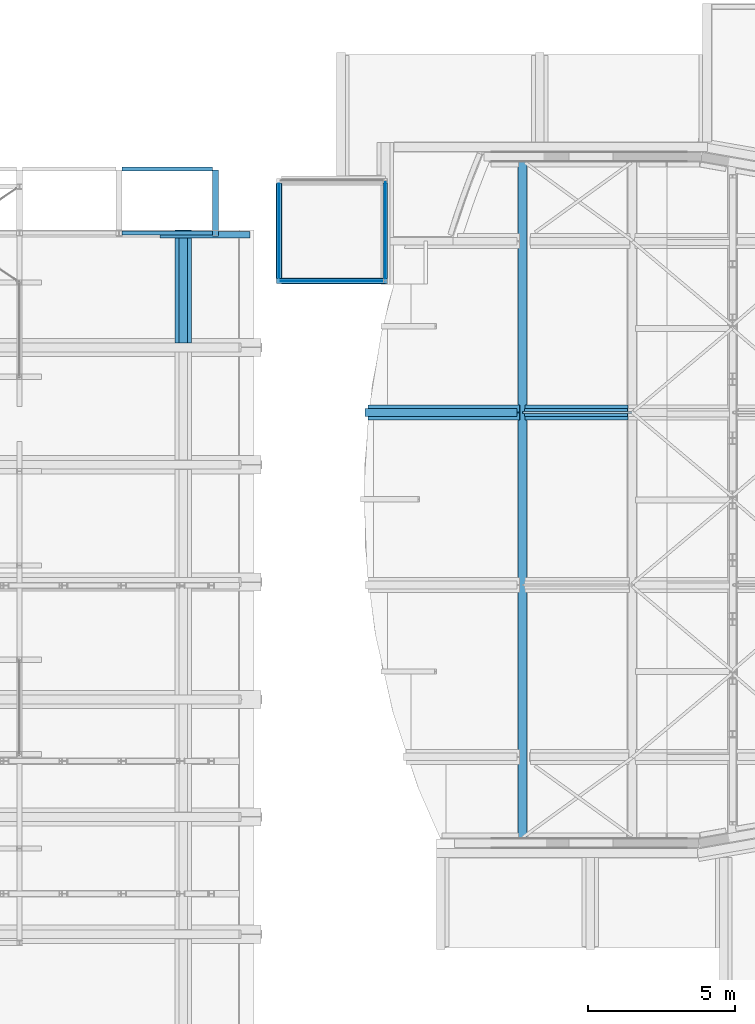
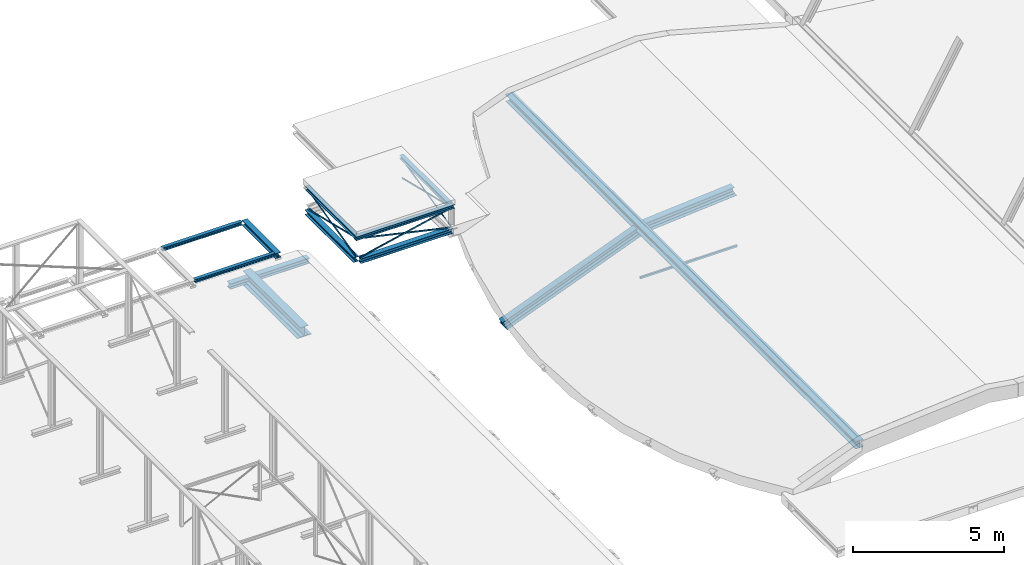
# One storey, part 22 of 50: 20 beams.
"""IFC2X3 building model written with IfcOpenShell, lengths in millimetres."""

import ifcopenshell
import ifcopenshell.guid

model = None  # the IFC model being written
_history = None  # IfcOwnerHistory: only IFC2X3 demands one
_inside = {}  # id of a spatial element -> (the spatial element, [elements in it])
_under = {}  # id of a project, library or spatial element -> (it, [spatial elements below it])
_declared = {}  # id of a project -> (the project, [libraries it declares])
_typed = {}  # id of a type object -> (the type object, [elements of that type])
_made_of = {}  # id of a material, layer set ... -> (it, [elements and type objects made of it])


def new_model(schema):
    """Start an empty IFC model of exactly this schema.

    Asked for "IFC4X3", IfcOpenShell would pick the latest addendum, in which some entities
    have other attributes; the version numbers below select the first issue.
    IFC2X3 requires an IfcOwnerHistory on every rooted entity: one is made here for all.
    """
    global model, _history
    if schema == "IFC4X3":
        model = ifcopenshell.file(schema_version=(4, 3, 0, 0))
    else:
        model = ifcopenshell.file(schema=schema)
    _inside.clear()
    _under.clear()
    _declared.clear()
    _typed.clear()
    _made_of.clear()
    _history = None
    if model.schema == "IFC2X3":
        org = make("IfcOrganization", Name="unknown")
        user = make(
            "IfcPersonAndOrganization",
            ThePerson=make("IfcPerson", FamilyName="unknown"),
            TheOrganization=org,
        )
        app = make(
            "IfcApplication",
            ApplicationDeveloper=org,
            Version="unknown",
            ApplicationFullName="unknown",
            ApplicationIdentifier="unknown",
        )
        _history = make(
            "IfcOwnerHistory",
            OwningUser=user,
            OwningApplication=app,
            ChangeAction="ADDED",
            CreationDate=0,
        )
    return model


def make(cls, **values):
    """One entity of the class cls with the attributes given. An attribute that is None is left unset."""
    return model.create_entity(
        cls, **{name: value for name, value in values.items() if value is not None}
    )


def entity(cls, *values):
    """Any entity or typed value of the class cls, its attributes in the order of the schema. None: left unset."""
    e = model.create_entity(cls)
    for i, value in enumerate(values):
        if value is not None:
            e[i] = value
    return e


def rooted(cls, **values):
    """An entity with a GlobalId (a new one), such as an element, a storey or a relation."""
    return make(cls, GlobalId=ifcopenshell.guid.new(), OwnerHistory=_history, **values)


def si_unit(unit_type, name, prefix=None):
    """IfcSIUnit, for example si_unit("LENGTHUNIT", "METRE", prefix="MILLI")."""
    return make("IfcSIUnit", UnitType=unit_type, Prefix=prefix, Name=name)


def converted_unit(unit_type, name, factor, base, dimensions=None, offset=None):
    """IfcConversionBasedUnit, such as the inch: factor (a typed value) times the base unit."""
    return make(
        "IfcConversionBasedUnit"
        if offset is None
        else "IfcConversionBasedUnitWithOffset",
        ConversionOffset=offset,
        Dimensions=None
        if dimensions is None
        else entity("IfcDimensionalExponents", *dimensions),
        UnitType=unit_type,
        Name=name,
        ConversionFactor=make(
            "IfcMeasureWithUnit", ValueComponent=factor, UnitComponent=base
        ),
    )


def derived_unit(unit_type, elements):
    """IfcDerivedUnit: a product of units, each with its exponent."""
    return make(
        "IfcDerivedUnit",
        Elements=[
            make("IfcDerivedUnitElement", Unit=unit, Exponent=power)
            for unit, power in elements
        ],
        UnitType=unit_type,
    )


def assignment(units):
    """IfcUnitAssignment: the units of a project."""
    return None if units is None else make("IfcUnitAssignment", Units=units)


def point(xyz):
    """IfcCartesianPoint."""
    return None if xyz is None else make("IfcCartesianPoint", Coordinates=xyz)


def direction(xyz):
    """IfcDirection."""
    return None if xyz is None else make("IfcDirection", DirectionRatios=xyz)


def frame(location, z_axis=None, x_axis=None):
    """IfcAxis2Placement3D, a coordinate frame: its origin and axes. An axis left out is left unset."""
    return make(
        "IfcAxis2Placement3D",
        Location=point(location),
        Axis=direction(z_axis),
        RefDirection=direction(x_axis),
    )


def frame_2d(location, x_axis=None):
    """IfcAxis2Placement2D, a coordinate frame in the plane: its origin and x axis."""
    return make(
        "IfcAxis2Placement2D", Location=point(location), RefDirection=direction(x_axis)
    )


def origin():
    """The frame at (0, 0, 0) with its axes left unset."""
    return frame((0.0, 0.0, 0.0))


def origin_2d_with_axis():
    """The frame at (0, 0) in the plane with the x axis (1, 0) written out."""
    return frame_2d((0.0, 0.0), x_axis=(1.0, 0.0))


def place(relative_to, where):
    """IfcLocalPlacement: puts the frame where relative to a parent placement (None: the world)."""
    return make(
        "IfcLocalPlacement", PlacementRelTo=relative_to, RelativePlacement=where
    )


def context(
    kind, dimensions, precision=None, world=None, true_north=None, identifier=None
):
    """IfcGeometricRepresentationContext, for example the 3D "Model" context."""
    return make(
        "IfcGeometricRepresentationContext",
        ContextIdentifier=identifier,
        ContextType=kind,
        CoordinateSpaceDimension=dimensions,
        Precision=precision,
        WorldCoordinateSystem=world,
        TrueNorth=true_north,
    )


def subcontext(parent, identifier, kind, view, scale=None):
    """IfcGeometricRepresentationSubContext, for example "Body" below "Model"."""
    return make(
        "IfcGeometricRepresentationSubContext",
        ContextIdentifier=identifier,
        ContextType=kind,
        ParentContext=parent,
        TargetScale=scale,
        TargetView=view,
    )


def project(units=None, contexts=None):
    """IfcProject with its units and contexts."""
    return rooted(
        "IfcProject",
        Name="project",
        RepresentationContexts=contexts,
        UnitsInContext=assignment(units),
    )


def spatial(cls, under=None, at=None, **own):
    """A site, building, storey or space (cls), placed at a placement, below another one or the project."""
    s = rooted(cls, ObjectPlacement=at, **own)
    if under is not None:
        _under.setdefault(under.id(), (under, []))[1].append(s)
    return s


def polyline(points):
    """IfcPolyline through the points."""
    return make("IfcPolyline", Points=[point(p) for p in points])


def circle_curve(where, radius):
    """IfcCircle in the frame where."""
    return make("IfcCircle", Position=where, Radius=radius)


def parameter(value):
    """IfcParameterValue: where a trimmed curve begins or ends, as a parameter of its basis curve."""
    return model.create_entity("IfcParameterValue", value)


def trimmed(basis, trim1, trim2, sense, master):
    """IfcTrimmedCurve: the piece of a basis curve between two trims."""
    return make(
        "IfcTrimmedCurve",
        BasisCurve=basis,
        Trim1=trim1,
        Trim2=trim2,
        SenseAgreement=sense,
        MasterRepresentation=master,
    )


def segment(curve, same_sense, transition):
    """IfcCompositeCurveSegment."""
    return make(
        "IfcCompositeCurveSegment",
        Transition=transition,
        SameSense=same_sense,
        ParentCurve=curve,
    )


def composite_curve(segments, self_intersect=None):
    """IfcCompositeCurve: segments joined end to end."""
    return make("IfcCompositeCurve", Segments=segments, SelfIntersect=self_intersect)


def profile(cls, at=None, kind="AREA", **sizes):
    """A parametric profile (cls). Its sizes go by their IFC names, for example OverallWidth=200.0."""
    return make(cls, ProfileType=kind, Position=at, **sizes)


def rectangle(**sizes):
    """IfcRectangleProfileDef."""
    return profile("IfcRectangleProfileDef", **sizes)


def i_section(**sizes):
    """IfcIShapeProfileDef."""
    return profile("IfcIShapeProfileDef", **sizes)


def outline(outer, holes=None, kind="AREA"):
    """IfcArbitraryClosedProfileDef: a profile drawn as a closed curve; with holes, ...WithVoids."""
    if holes is None:
        return make("IfcArbitraryClosedProfileDef", ProfileType=kind, OuterCurve=outer)
    return make(
        "IfcArbitraryProfileDefWithVoids",
        ProfileType=kind,
        OuterCurve=outer,
        InnerCurves=holes,
    )


def extrude(swept, where, along, depth):
    """IfcExtrudedAreaSolid: the profile swept, set in the frame where, extruded along a direction by depth."""
    return make(
        "IfcExtrudedAreaSolid",
        SweptArea=swept,
        Position=where,
        ExtrudedDirection=direction(along),
        Depth=depth,
    )


def shape(context_of_items, identifier, shape_type, items):
    """IfcShapeRepresentation: the items that make up one representation, for example the "Body"."""
    return make(
        "IfcShapeRepresentation",
        ContextOfItems=context_of_items,
        RepresentationIdentifier=identifier,
        RepresentationType=shape_type,
        Items=items,
    )


def source(mapping_origin, context_of_items, identifier, shape_type, items):
    """IfcRepresentationMap: a shape defined once, which mapped items show again and again."""
    return make(
        "IfcRepresentationMap",
        MappingOrigin=mapping_origin,
        MappedRepresentation=shape(context_of_items, identifier, shape_type, items),
    )


def transform(
    local_origin,
    x_axis=None,
    y_axis=None,
    z_axis=None,
    scale=None,
    scale2=None,
    scale3=None,
    uniform=True,
):
    """IfcCartesianTransformationOperator3D, or its non-uniform kind. x_axis, y_axis, z_axis: its Axis1, 2, 3."""
    if uniform:
        return make(
            "IfcCartesianTransformationOperator3D",
            Axis1=direction(x_axis),
            Axis2=direction(y_axis),
            LocalOrigin=point(local_origin),
            Scale=scale,
            Axis3=direction(z_axis),
        )
    return make(
        "IfcCartesianTransformationOperator3DnonUniform",
        Axis1=direction(x_axis),
        Axis2=direction(y_axis),
        LocalOrigin=point(local_origin),
        Scale=scale,
        Axis3=direction(z_axis),
        Scale2=scale2,
        Scale3=scale3,
    )


def mapped(mapping_source, mapping_target):
    """IfcMappedItem: shows the shape of a source again, moved by a transform."""
    return make(
        "IfcMappedItem", MappingSource=mapping_source, MappingTarget=mapping_target
    )


def material(Name=None, Category=None):
    """IfcMaterial."""
    return make("IfcMaterial", Name=Name, Category=Category)


def material_list(materials):
    """IfcMaterialList."""
    return make("IfcMaterialList", Materials=materials)


def made_of(thing, what):
    """Note that an element or type object is made of a material, layer set ...; save() writes the relation."""
    if what is not None:
        _made_of.setdefault(what.id(), (what, []))[1].append(thing)
    return thing


def type_object(cls, material=None, **own):
    """A type object (cls), such as IfcWallType, which elements share."""
    return made_of(rooted(cls, **own), material)


def type_shapes(of_type, sources):
    """Give a type object the sources (RepresentationMaps) that its elements show as mapped items."""
    of_type.RepresentationMaps = sources


def element(
    cls,
    number,
    at=None,
    inside=None,
    cuts=None,
    type_object=None,
    material=None,
    context=None,
    identifier="Body",
    shape_type=None,
    held_by="IfcProductDefinitionShape",
    body=None,
    shapes=None,
    **own,
):
    """One element of the class cls, such as IfcWall. Its Tag is "e" and its number.

    at: its placement. inside: the storey or other place that contains it. cuts: it is an
    opening in that element (IfcRelVoidsElement). A single representation is given by context,
    identifier, shape_type and body (its items); several are given by shapes. held_by: the class
    of the entity that holds the representations. save() writes the other relations.
    """
    e = rooted(cls, Tag="e%d" % number, ObjectPlacement=at, **own)
    if body is not None:
        shapes = [shape(context, identifier, shape_type, body)]
    if shapes is not None:
        e.Representation = make(held_by, Representations=shapes)
    if inside is not None:
        _inside.setdefault(inside.id(), (inside, []))[1].append(e)
    if cuts is not None:
        rooted(
            "IfcRelVoidsElement", RelatingBuildingElement=cuts, RelatedOpeningElement=e
        )
    if type_object is not None:
        _typed.setdefault(type_object.id(), (type_object, []))[1].append(e)
    return made_of(e, material)


def aggregate(whole, parts):
    """IfcRelAggregates: a whole, such as a stair, and the parts it consists of."""
    return rooted("IfcRelAggregates", RelatingObject=whole, RelatedObjects=parts)


def save(model, path):
    """Write the relations noted so far, then the file.

    IfcRelAggregates (storeys below a building ...), IfcRelContainedInSpatialStructure (elements
    in a storey), IfcRelDefinesByType, IfcRelAssociatesMaterial and IfcRelDeclares: one each for
    every whole, place, type object, material and project.
    """
    for whole, parts in _under.values():
        aggregate(whole, parts)
    for where, things in _inside.values():
        rooted(
            "IfcRelContainedInSpatialStructure",
            RelatedElements=things,
            RelatingStructure=where,
        )
    for kind, things in _typed.values():
        rooted("IfcRelDefinesByType", RelatedObjects=things, RelatingType=kind)
    for what, things in _made_of.values():
        rooted("IfcRelAssociatesMaterial", RelatedObjects=things, RelatingMaterial=what)
    for by, libraries in _declared.values():
        rooted("IfcRelDeclares", RelatingContext=by, RelatedDefinitions=libraries)
    model.write(path)


model = new_model("IFC2X3")

# Units and contexts
model_context = context("Model", 3, precision=0.01, world=origin(), true_north=direction((6.12303176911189e-17, 1.0)))
body_context = subcontext(model_context, "Body", "Model", "MODEL_VIEW")
ifc_project = project(units=[si_unit("LENGTHUNIT", "METRE", prefix="MILLI"), si_unit("AREAUNIT", "SQUARE_METRE", prefix="MILLI"), si_unit("VOLUMEUNIT", "CUBIC_METRE"), converted_unit("PLANEANGLEUNIT", "DEGREE", entity("IfcRatioMeasure", 0.0174532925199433), si_unit("PLANEANGLEUNIT", "RADIAN"), dimensions=[0, 0, 0, 0, 0, 0, 0]), si_unit("MASSUNIT", "GRAM", prefix="KILO"), derived_unit("MASSDENSITYUNIT", [(si_unit("MASSUNIT", "GRAM", prefix="KILO"), 1), (si_unit("LENGTHUNIT", "METRE"), -3)]), derived_unit("MOMENTOFINERTIAUNIT", [(si_unit("LENGTHUNIT", "METRE"), 4)]), si_unit("TIMEUNIT", "SECOND"), si_unit("FREQUENCYUNIT", "HERTZ"), si_unit("THERMODYNAMICTEMPERATUREUNIT", "DEGREE_CELSIUS"), derived_unit("THERMALTRANSMITTANCEUNIT", [(si_unit("MASSUNIT", "GRAM", prefix="KILO"), 1), (si_unit("THERMODYNAMICTEMPERATUREUNIT", "KELVIN"), -1), (si_unit("TIMEUNIT", "SECOND"), -3)]), derived_unit("VOLUMETRICFLOWRATEUNIT", [(si_unit("LENGTHUNIT", "METRE"), 3), (si_unit("TIMEUNIT", "SECOND"), -1)]), si_unit("ELECTRICCURRENTUNIT", "AMPERE"), si_unit("ELECTRICVOLTAGEUNIT", "VOLT"), si_unit("POWERUNIT", "WATT"), si_unit("FORCEUNIT", "NEWTON", prefix="KILO"), si_unit("ILLUMINANCEUNIT", "LUX"), si_unit("LUMINOUSFLUXUNIT", "LUMEN"), si_unit("LUMINOUSINTENSITYUNIT", "CANDELA"), derived_unit("USERDEFINED", [(si_unit("MASSUNIT", "GRAM", prefix="KILO"), -1), (si_unit("LENGTHUNIT", "METRE"), -2), (si_unit("TIMEUNIT", "SECOND"), 3), (si_unit("LUMINOUSFLUXUNIT", "LUMEN"), 1)]), derived_unit("LINEARVELOCITYUNIT", [(si_unit("LENGTHUNIT", "METRE"), 1), (si_unit("TIMEUNIT", "SECOND"), -1)]), si_unit("PRESSUREUNIT", "PASCAL"), derived_unit("USERDEFINED", [(si_unit("LENGTHUNIT", "METRE"), -2), (si_unit("MASSUNIT", "GRAM", prefix="KILO"), 1), (si_unit("TIMEUNIT", "SECOND"), -2)]), derived_unit("LINEARFORCEUNIT", [(si_unit("MASSUNIT", "GRAM", prefix="KILO"), 1), (si_unit("LENGTHUNIT", "METRE"), 1), (si_unit("TIMEUNIT", "SECOND"), -2), (si_unit("LENGTHUNIT", "METRE"), -1)]), derived_unit("PLANARFORCEUNIT", [(si_unit("MASSUNIT", "GRAM", prefix="KILO"), 1), (si_unit("LENGTHUNIT", "METRE"), 1), (si_unit("TIMEUNIT", "SECOND"), -2), (si_unit("LENGTHUNIT", "METRE"), -2)])], contexts=[model_context])

# Site, building, storey
site_placement = place(None, origin())
site = spatial("IfcSite", under=ifc_project, at=site_placement, Name="Theater aan de Parade", CompositionType="ELEMENT")
building_placement = place(site_placement, origin())
building = spatial("IfcBuilding", under=site, at=building_placement, Name="Theater aan de Parade", CompositionType="ELEMENT")
storey_placement = place(building_placement, frame((0.0, 0.0, 15820.0)))
storey = spatial("IfcBuildingStorey", under=building, at=storey_placement, Name="04 vierde verdieping", CompositionType="ELEMENT", Elevation=15820.0)

# Beams
ifc_material_1 = material(Name="00_PBT_MAT_staal_S355")
beam_type_1 = type_object("IfcBeamType", Name="28_PBT_SF_staal_H-profiel:S355_HE140A", PredefinedType="NOTDEFINED")
beam_1_placement = place(storey_placement, frame((35198.1862556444, 43641.6918178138, 0.0), z_axis=(0.0, 0.0, 1.0), x_axis=(-1.0, 0.0, 0.0)))
element("IfcBeam", 1, at=beam_1_placement, inside=storey, type_object=beam_type_1, material=ifc_material_1, Name="28_PBT_SF_staal_H-profiel:S355_HE140A", ObjectType="28_PBT_SF_staal_H-profiel:S355_HE140A", context=body_context, shape_type="SweptSolid", body=[
    extrude(i_section(OverallWidth=139.999999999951, OverallDepth=133.0, WebThickness=5.50000000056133, FlangeThickness=8.49999999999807, FilletRadius=11.9999999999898, at=frame_2d((-2.16715534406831e-12, 8.66151594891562e-12), x_axis=(0.0, 1.0))), frame((100.0, 0.0, 263.499999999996), z_axis=(1.0, 0.0, 0.0), x_axis=(0.0, 0.0, -1.0)), (0.0, 0.0, 1.0), 3065.16378087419),
])
beam_2_placement = place(storey_placement, frame((32033.0224747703, 41473.3083270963, 0.0)))
element("IfcBeam", 2, at=beam_2_placement, inside=storey, type_object=beam_type_1, material=ifc_material_1, Name="28_PBT_SF_staal_H-profiel:S355_HE140A", ObjectType="28_PBT_SF_staal_H-profiel:S355_HE140A", context=body_context, shape_type="SweptSolid", body=[
    extrude(outline(composite_curve([segment(polyline([(58.0, -70.0), (66.5000000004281, -70.0)]), True, "CONTINUOUS"), segment(polyline([(66.5000000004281, -70.0), (66.499999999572, 70.0)]), True, "CONTINUOUS"), segment(polyline([(66.499999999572, 70.0), (58.0, 70.0)]), True, "CONTINUOUS"), segment(polyline([(58.0, 70.0), (58.0, 14.750000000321)]), True, "CONTINUOUS"), segment(trimmed(circle_curve(frame_2d((46.0, 14.750000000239), x_axis=(1.0, 0.0)), 11.9999999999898), [parameter(269.999999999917)], [parameter(0.0)], True, "PARAMETER"), False, "CONTINUOUS"), segment(polyline([(46.0, 2.75000000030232), (-46.0, 2.74999999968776)]), True, "CONTINUOUS"), segment(trimmed(circle_curve(frame_2d((-46.0, 14.7499999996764), x_axis=(0.0, -1.0)), 11.9999999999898), [parameter(269.999999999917)], [parameter(0.0)], True, "PARAMETER"), False, "CONTINUOUS"), segment(polyline([(-58.0, 14.7499999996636), (-58.0, 70.0)]), True, "CONTINUOUS"), segment(polyline([(-58.0, 70.0), (-66.5000000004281, 70.0)]), True, "CONTINUOUS"), segment(polyline([(-66.5000000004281, 70.0), (-66.499999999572, -70.0)]), True, "CONTINUOUS"), segment(polyline([(-66.4999999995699, -70.0), (-58.0, -70.0)]), True, "CONTINUOUS"), segment(polyline([(-58.0, -70.0), (-58.0, -14.7500000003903)]), True, "CONTINUOUS"), segment(trimmed(circle_curve(frame_2d((-46.0, -14.7500000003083), x_axis=(-1.0, 0.0)), 11.9999999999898), [parameter(269.999999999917)], [parameter(0.0)], True, "PARAMETER"), False, "CONTINUOUS"), segment(polyline([(-46.0, -2.75000000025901), (46.0, -2.7499999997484)]), True, "CONTINUOUS"), segment(trimmed(circle_curve(frame_2d((46.0, -14.7499999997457), x_axis=(0.0, 1.0)), 11.9999999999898), [parameter(269.999999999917)], [parameter(0.0)], True, "PARAMETER"), False, "CONTINUOUS"), segment(polyline([(58.0, -14.749999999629), (58.0, -70.0)]), True, "CONTINUOUS")], self_intersect=False)), frame((0.0, 0.0, 295.5), z_axis=(1.0, 0.0, 0.0), x_axis=(0.0, 0.0, -1.0)), (0.0, 0.0, 1.0), 3065.16378087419),
])
beam_type_2 = type_object("IfcBeamType", Name="28_PBT_SF_staal_H-profiel:S355_HE300B", PredefinedType="NOTDEFINED")
beam_3_placement = place(storey_placement, frame((45610.0, 20630.0, 1440.0), z_axis=(0.0, 0.0, 1.0), x_axis=(0.0, 1.0, 0.0)))
element("IfcBeam", 3, at=beam_3_placement, inside=storey, type_object=beam_type_2, material=ifc_material_1, Name="28_PBT_SF_staal_H-profiel:S355_HE300B", ObjectType="28_PBT_SF_staal_H-profiel:S355_HE300B", context=body_context, shape_type="SweptSolid", body=[
    extrude(i_section(OverallWidth=300.000000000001, OverallDepth=300.000000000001, WebThickness=10.9999999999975, FlangeThickness=18.9999999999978, FilletRadius=27.0000000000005, at=frame_2d((2.17426077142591e-12, 8.65441052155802e-12), x_axis=(0.0, 1.0))), frame((162.699999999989, 0.0, 0.0), z_axis=(1.0, 0.0, 0.0), x_axis=(0.0, 0.0, -1.0)), (0.0, 0.0, 1.0), 23254.6),
])
beam_type_3 = type_object("IfcBeamType", Name="28_PBT_SF_staal_H-profiel (void):S355_HE200A", PredefinedType="NOTDEFINED")
beam_4_placement = place(storey_placement, frame((40973.8581274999, 39850.0, 0.0), z_axis=(0.0, 0.0, 1.0), x_axis=(-1.0, 0.0, 0.0)))
element("IfcBeam", 4, at=beam_4_placement, inside=storey, type_object=beam_type_3, material=ifc_material_1, Name="28_PBT_SF_staal_H-profiel (void):S355_HE200A", ObjectType="28_PBT_SF_staal_H-profiel (void):S355_HE200A", context=body_context, shape_type="SweptSolid", body=[
    extrude(outline(composite_curve([segment(polyline([(85.0, -100.0), (95.0, -100.0)]), True, "CONTINUOUS"), segment(polyline([(95.0, -100.0), (95.0, 100.0)]), True, "CONTINUOUS"), segment(polyline([(95.0, 100.0), (85.0, 100.0)]), True, "CONTINUOUS"), segment(polyline([(85.0, 100.0), (85.0, 21.2500000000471)]), True, "CONTINUOUS"), segment(trimmed(circle_curve(frame_2d((67.0, 21.2500000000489), x_axis=(1.0, 0.0)), 17.9999999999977), [parameter(269.999999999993)], [parameter(0.0)], True, "PARAMETER"), False, "CONTINUOUS"), segment(polyline([(67.0, 3.25000000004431), (-67.0, 3.24999999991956)]), True, "CONTINUOUS"), segment(trimmed(circle_curve(frame_2d((-67.0, 21.2499999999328), x_axis=(0.0, -1.0)), 17.9999999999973), [parameter(269.999999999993)], [parameter(0.0)], True, "PARAMETER"), False, "CONTINUOUS"), segment(polyline([(-85.0, 21.2499999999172), (-85.0, 100.0)]), True, "CONTINUOUS"), segment(polyline([(-85.0, 100.0), (-95.0, 100.0)]), True, "CONTINUOUS"), segment(polyline([(-95.0, 100.0), (-95.0, -100.0)]), True, "CONTINUOUS"), segment(polyline([(-95.0, -100.0), (-85.0, -100.0)]), True, "CONTINUOUS"), segment(polyline([(-85.0, -100.0), (-85.0, -21.2500000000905)]), True, "CONTINUOUS"), segment(trimmed(circle_curve(frame_2d((-67.0, -21.2500000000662), x_axis=(-1.0, 0.0)), 17.9999999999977), [parameter(269.999999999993)], [parameter(0.0)], True, "PARAMETER"), False, "CONTINUOUS"), segment(polyline([(-67.0, -3.2500000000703), (67.0, -3.24999999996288)]), True, "CONTINUOUS"), segment(trimmed(circle_curve(frame_2d((67.0, -21.2499999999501), x_axis=(0.0, 1.0)), 17.9999999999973), [parameter(269.999999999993)], [parameter(0.0)], True, "PARAMETER"), False, "CONTINUOUS"), segment(polyline([(85.0, -21.2499999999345), (85.0, -100.0)]), True, "CONTINUOUS")], self_intersect=False)), frame((0.0, 0.0, 220.0), z_axis=(1.0, 0.0, 0.0), x_axis=(0.0, 0.0, -1.0)), (0.0, 0.0, 1.0), 3534.49999741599),
])
beam_type_4 = type_object("IfcBeamType", Name="28_PBT_SF_staal_H-profiel:S355_HE200B", PredefinedType="NOTDEFINED")
beam_5_placement = place(storey_placement, frame((35198.1862556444, 43617.3619328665, 0.0), z_axis=(0.0, 0.0, 1.0), x_axis=(0.0, -1.0, 0.0)))
element("IfcBeam", 5, at=beam_5_placement, inside=storey, type_object=beam_type_4, material=ifc_material_1, Name="28_PBT_SF_staal_H-profiel:S355_HE200B", ObjectType="28_PBT_SF_staal_H-profiel:S355_HE200B", context=body_context, shape_type="SweptSolid", body=[
    extrude(i_section(OverallWidth=200.000000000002, OverallDepth=200.0, WebThickness=9.00000000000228, FlangeThickness=14.9999999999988, FilletRadius=18.0000000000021, at=frame_2d((-1.08713038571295e-12, -2.16715534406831e-12), x_axis=(0.0, 1.0))), frame((0.0, 0.0, 262.0), z_axis=(1.0, 0.0, 0.0), x_axis=(0.0, 0.0, -1.0)), (0.0, 0.0, 1.0), 2244.0536057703),
])
beam_6_placement = place(storey_placement, frame((37353.858130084, 43160.0, 0.0), z_axis=(0.0, 0.0, 1.0), x_axis=(0.0, -1.0, 0.0)))
element("IfcBeam", 6, at=beam_6_placement, inside=storey, type_object=beam_type_4, material=ifc_material_1, Name="28_PBT_SF_staal_H-profiel:S355_HE200B", ObjectType="28_PBT_SF_staal_H-profiel:S355_HE200B", context=body_context, shape_type="SweptSolid", body=[
    extrude(i_section(OverallWidth=200.000000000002, OverallDepth=200.0, WebThickness=9.00000000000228, FlangeThickness=14.9999999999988, FilletRadius=18.0000000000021, at=frame_2d((3.24718030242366e-12, 2.16715534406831e-12), x_axis=(0.0, 1.0))), frame((0.0, 0.0, 215.0), z_axis=(1.0, 0.0, 0.0), x_axis=(0.0, 0.0, -1.0)), (0.0, 0.0, 1.0), 3220.00000560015),
])
beam_type_5 = type_object("IfcBeamType", Name="28_PBT_SF_staal_H-profiel:S355_HE160A", PredefinedType="NOTDEFINED")
beam_7_placement = place(storey_placement, frame((37353.858130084, 43170.0, 0.0), z_axis=(0.0, 0.0, 1.0), x_axis=(0.0, -1.0, 0.0)))
element("IfcBeam", 7, at=beam_7_placement, inside=storey, type_object=beam_type_5, material=ifc_material_1, Name="28_PBT_SF_staal_H-profiel:S355_HE160A", ObjectType="28_PBT_SF_staal_H-profiel:S355_HE160A", context=body_context, shape_type="SweptSolid", body=[
    extrude(i_section(OverallWidth=160.000000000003, OverallDepth=152.0, WebThickness=6.00000000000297, FlangeThickness=8.99999999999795, FilletRadius=15.0000000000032, at=frame_2d((0.0, -6.49436060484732e-12), x_axis=(0.0, 1.0))), frame((0.0, 0.0, 1174.0), z_axis=(1.0, 0.0, 0.0), x_axis=(0.0, 0.0, -1.0)), (0.0, 0.0, 1.0), 3240.00000560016),
])
beam_8_placement = place(storey_placement, frame((41043.8581275, 39850.0, 0.0), z_axis=(0.0, 0.0, 1.0), x_axis=(-1.0, 0.0, 0.0)))
element("IfcBeam", 8, at=beam_8_placement, inside=storey, type_object=beam_type_5, material=ifc_material_1, Name="28_PBT_SF_staal_H-profiel:S355_HE160A", ObjectType="28_PBT_SF_staal_H-profiel:S355_HE160A", context=body_context, shape_type="SweptSolid", body=[
    extrude(outline(composite_curve([segment(polyline([(67.0, -80.0), (76.0, -80.0)]), True, "CONTINUOUS"), segment(polyline([(76.0, -80.0), (76.0, 80.0)]), True, "CONTINUOUS"), segment(polyline([(76.0, 80.0), (67.0, 80.0)]), True, "CONTINUOUS"), segment(polyline([(67.0, 80.0), (67.0, 18.0)]), True, "CONTINUOUS"), segment(trimmed(circle_curve(frame_2d((52.0, 18.0), x_axis=(1.0, 0.0)), 14.9999999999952), [parameter(269.999999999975)], [parameter(0.0)], True, "PARAMETER"), False, "CONTINUOUS"), segment(polyline([(52.0, 3.0), (-52.0, 3.0)]), True, "CONTINUOUS"), segment(trimmed(circle_curve(frame_2d((-52.0, 18.0), x_axis=(0.0, -1.0)), 14.9999999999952), [parameter(269.999999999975)], [parameter(0.0)], True, "PARAMETER"), False, "CONTINUOUS"), segment(polyline([(-67.0, 18.0), (-67.0, 80.0)]), True, "CONTINUOUS"), segment(polyline([(-67.0, 80.0), (-76.0, 80.0)]), True, "CONTINUOUS"), segment(polyline([(-76.0, 80.0), (-76.0, -80.0)]), True, "CONTINUOUS"), segment(polyline([(-76.0, -80.0), (-67.0, -80.0)]), True, "CONTINUOUS"), segment(polyline([(-67.0, -80.0), (-67.0, -18.0)]), True, "CONTINUOUS"), segment(trimmed(circle_curve(frame_2d((-52.0, -18.0), x_axis=(-1.0, 0.0)), 14.9999999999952), [parameter(269.999999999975)], [parameter(0.0)], True, "PARAMETER"), False, "CONTINUOUS"), segment(polyline([(-52.0, -3.0), (52.0, -3.0)]), True, "CONTINUOUS"), segment(trimmed(circle_curve(frame_2d((52.0, -18.0), x_axis=(0.0, 1.0)), 14.9999999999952), [parameter(269.999999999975)], [parameter(0.0)], True, "PARAMETER"), False, "CONTINUOUS"), segment(polyline([(67.0, -18.0), (67.0, -80.0)]), True, "CONTINUOUS")], self_intersect=False)), frame((0.0, 0.0, 1174.0), z_axis=(1.0, 0.0, 0.0), x_axis=(0.0, 0.0, -1.0)), (0.0, 0.0, 1.0), 3775.499997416),
])
beam_9_placement = place(storey_placement, frame((40963.8581275, 43170.0, 0.0), z_axis=(0.0, 0.0, 1.0), x_axis=(0.0, -1.0, 0.0)))
element("IfcBeam", 9, at=beam_9_placement, inside=storey, type_object=beam_type_5, material=ifc_material_1, Name="28_PBT_SF_staal_H-profiel:S355_HE160A", ObjectType="28_PBT_SF_staal_H-profiel:S355_HE160A", context=body_context, shape_type="SweptSolid", body=[
    extrude(i_section(OverallWidth=159.999999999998, OverallDepth=152.0, WebThickness=5.99999999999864, FlangeThickness=8.99999999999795, FilletRadius=14.9999999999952, at=frame_2d((0.0, 0.0), x_axis=(0.0, 1.0))), frame((0.0, 0.0, 1174.0), z_axis=(1.0, 0.0, 0.0), x_axis=(0.0, 0.0, -1.0)), (0.0, 0.0, 1.0), 3240.00000560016),
])
ifc_material_2 = material(Name="00_PBT_MAT_Lucht")
ifc_material_list_1 = material_list([ifc_material_1, ifc_material_2])
beam_type_6 = type_object("IfcBeamType", Name="28_PBT_SF_staal_H-profiel_met_onderplaat (void):S355_HE260A + onderplaat d=12", PredefinedType="BEAM", material=ifc_material_list_1)
shared_shape_1 = source(origin(), body_context, "Body", "SweptSolid", [
    extrude(rectangle(XDim=12.0, YDim=510.0, at=frame_2d((2.28705943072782e-13, -1.4210854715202e-14), x_axis=(1.0, 0.0))), frame((-1760.0, 0.0, -131.0), z_axis=(1.0, 0.0, 0.0), x_axis=(0.0, 0.0, -1.0)), (0.0, 0.0, 1.0), 3507.2999993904),
    extrude(i_section(OverallWidth=260.0, OverallDepth=250.0, WebThickness=7.49999999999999, FlangeThickness=12.4999999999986, FilletRadius=24.0, at=frame_2d((-4.05009359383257e-13, 0.0), x_axis=(0.0, 1.0))), frame((-1760.0, 0.0, 0.0), z_axis=(1.0, 0.0, 0.0), x_axis=(0.0, 0.0, -1.0)), (0.0, 0.0, 1.0), 3507.2999993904),
])
type_shapes(beam_type_6, [shared_shape_1])
beam_10_placement = place(storey_placement, frame((47442.1140129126, 35389.5120085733, 1575.71116017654), z_axis=(-0.0796770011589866, 0.0, 0.996820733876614), x_axis=(0.996820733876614, 0.0, 0.0796770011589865)))
element("IfcBeam", 10, at=beam_10_placement, inside=storey, type_object=beam_type_6, material=ifc_material_1, Name="28_PBT_SF_staal_H-profiel_met_onderplaat (void):S355_HE260A + onderplaat d=12", ObjectType="28_PBT_SF_staal_H-profiel_met_onderplaat (void):S355_HE260A + onderplaat d=12", context=body_context, shape_type="MappedRepresentation", body=[
    mapped(shared_shape_1, transform((0.0, 0.0, 0.0), scale=1.0)),
])
ifc_material_list_2 = material_list([ifc_material_1, ifc_material_2])
beam_type_7 = type_object("IfcBeamType", Name="28_PBT_SF_staal_H-profiel_met_onderplaat (void):S355_HE260A + onderplaat d=12", PredefinedType="BEAM", material=ifc_material_list_2)
shared_shape_2 = source(origin(), body_context, "Body", "SweptSolid", [
    extrude(rectangle(XDim=12.0, YDim=510.0, at=frame_2d((9.13935593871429e-13, -1.4210854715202e-14), x_axis=(1.0, 0.0))), frame((-2762.3848365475, 0.0, -131.0), z_axis=(1.0, 0.0, 0.0), x_axis=(0.0, 0.0, -1.0)), (0.0, 0.0, 1.0), 5524.76967309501),
    extrude(i_section(OverallWidth=260.0, OverallDepth=250.0, WebThickness=7.49999999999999, FlangeThickness=12.4999999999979, FilletRadius=24.0, at=frame_2d((-4.12114786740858e-13, 0.0), x_axis=(0.0, 1.0))), frame((-2762.3848365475, 0.0, 0.0), z_axis=(1.0, 0.0, 0.0), x_axis=(0.0, 0.0, -1.0)), (0.0, 0.0, 1.0), 5524.76967309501),
])
type_shapes(beam_type_7, [shared_shape_2])
beam_11_placement = place(storey_placement, frame((42900.1791683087, 35389.5120085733, 344.702246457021), z_axis=(-0.363251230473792, 0.0, 0.931691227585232), x_axis=(0.931691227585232, 0.0, 0.363251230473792)))
element("IfcBeam", 11, at=beam_11_placement, inside=storey, type_object=beam_type_7, material=ifc_material_1, Name="28_PBT_SF_staal_H-profiel_met_onderplaat (void):S355_HE260A + onderplaat d=12", ObjectType="28_PBT_SF_staal_H-profiel_met_onderplaat (void):S355_HE260A + onderplaat d=12", context=body_context, shape_type="MappedRepresentation", body=[
    mapped(shared_shape_2, transform((0.0, 0.0, 0.0), scale=1.0)),
])
ifc_material_list_3 = material_list([ifc_material_2, ifc_material_1])
beam_type_8 = type_object("IfcBeamType", Name="28_PBT_SF_staal_H-profiel_met_onderplaat (void):S355_HE400A + onderplaat d=20", PredefinedType="BEAM", material=ifc_material_list_3)
shared_shape_3 = source(origin(), body_context, "Body", "SweptSolid", [
    extrude(rectangle(XDim=20.0, YDim=550.0, at=frame_2d((3.37507799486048e-14, 0.0), x_axis=(1.0, 0.0))), frame((-1831.79046280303, 0.0, -205.0), z_axis=(1.0, 0.0, 0.0), x_axis=(0.0, 0.0, -1.0)), (0.0, 0.0, 1.0), 3821.33092560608),
    extrude(outline(composite_curve([segment(polyline([(176.0, -150.0), (195.0, -150.0)]), True, "CONTINUOUS"), segment(polyline([(195.0, -150.0), (195.0, 150.0)]), True, "CONTINUOUS"), segment(polyline([(195.0, 150.0), (176.0, 150.0)]), True, "CONTINUOUS"), segment(polyline([(176.0, 150.0), (176.0, 32.5)]), True, "CONTINUOUS"), segment(trimmed(circle_curve(frame_2d((149.0, 32.4999999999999), x_axis=(1.0, 0.0)), 26.9999999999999), [parameter(270.0)], [parameter(0.0)], True, "PARAMETER"), False, "CONTINUOUS"), segment(polyline([(149.0, 5.49999999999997), (-149.0, 5.49999999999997)]), True, "CONTINUOUS"), segment(trimmed(circle_curve(frame_2d((-149.0, 32.5), x_axis=(0.0, -1.0)), 27.0), [parameter(270.0)], [parameter(0.0)], True, "PARAMETER"), False, "CONTINUOUS"), segment(polyline([(-176.0, 32.5), (-176.0, 150.0)]), True, "CONTINUOUS"), segment(polyline([(-176.0, 150.0), (-195.0, 150.0)]), True, "CONTINUOUS"), segment(polyline([(-195.0, 150.0), (-195.0, -150.0)]), True, "CONTINUOUS"), segment(polyline([(-195.0, -150.0), (-176.0, -150.0)]), True, "CONTINUOUS"), segment(polyline([(-176.0, -150.0), (-176.0, -32.5)]), True, "CONTINUOUS"), segment(trimmed(circle_curve(frame_2d((-149.0, -32.5), x_axis=(-1.0, 0.0)), 26.9999999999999), [parameter(269.999999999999)], [parameter(0.0)], True, "PARAMETER"), False, "CONTINUOUS"), segment(polyline([(-149.0, -5.50000000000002), (149.0, -5.50000000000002)]), True, "CONTINUOUS"), segment(trimmed(circle_curve(frame_2d((149.0, -32.4999999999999), x_axis=(0.0, 1.0)), 26.9999999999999), [parameter(270.0)], [parameter(0.0)], True, "PARAMETER"), False, "CONTINUOUS"), segment(polyline([(176.0, -32.5), (176.0, -150.0)]), True, "CONTINUOUS")], self_intersect=False)), frame((-1831.79046280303, 0.0, 0.0), z_axis=(1.0, 0.0, 0.0), x_axis=(0.0, 0.0, -1.0)), (0.0, 0.0, 1.0), 3821.33092560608),
])
type_shapes(beam_type_8, [shared_shape_3])
beam_12_placement = place(storey_placement, frame((34109.3570025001, 39583.7678642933, -235.0), z_axis=(0.0, 0.0, 1.0), x_axis=(0.0, 1.0, 0.0)))
element("IfcBeam", 12, at=beam_12_placement, inside=storey, type_object=beam_type_8, material=ifc_material_1, Name="28_PBT_SF_staal_H-profiel_met_onderplaat (void):S355_HE400A + onderplaat d=20", ObjectType="28_PBT_SF_staal_H-profiel_met_onderplaat (void):S355_HE400A + onderplaat d=20", context=body_context, shape_type="MappedRepresentation", body=[
    mapped(shared_shape_3, transform((0.0, 0.0, 0.0), scale=1.0)),
])
beam_type_9 = type_object("IfcBeamType", Name="28_PBT_SF_staal_koker:S355_K80x80x5", PredefinedType="NOTDEFINED")
beam_13_placement = place(storey_placement, frame((45614.5000000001, 35389.5120085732, -660.0)))
element("IfcBeam", 13, at=beam_13_placement, inside=storey, type_object=beam_type_9, material=ifc_material_1, Name="28_PBT_SF_staal_koker:S355_K80x80x5", ObjectType="28_PBT_SF_staal_koker:S355_K80x80x5", context=body_context, shape_type="SweptSolid", body=[
    extrude(outline(composite_curve([segment(polyline([(-32.4999999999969, -40.0), (32.5000000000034, -40.0)]), True, "CONTINUOUS"), segment(trimmed(circle_curve(frame_2d((32.5000000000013, -32.5000000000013), x_axis=(0.0, 1.0)), 7.5), [parameter(180.0)], [parameter(270.0)], True, "PARAMETER"), True, "CONTINUOUS"), segment(polyline([(40.0, -32.5000000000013), (40.0, 32.5000000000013)]), True, "CONTINUOUS"), segment(trimmed(circle_curve(frame_2d((32.5000000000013, 32.4999999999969), x_axis=(0.0, 1.0)), 7.5), [parameter(270.0)], [parameter(360.0)], True, "PARAMETER"), True, "CONTINUOUS"), segment(polyline([(32.5000000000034, 40.0), (-32.4999999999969, 40.0)]), True, "CONTINUOUS"), segment(trimmed(circle_curve(frame_2d((-32.4999999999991, 32.4999999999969), x_axis=(0.0, 1.0)), 7.5), [parameter(0.0)], [parameter(90.0000000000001)], True, "PARAMETER"), True, "CONTINUOUS"), segment(polyline([(-40.0, 32.5000000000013), (-40.0, -32.5000000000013)]), True, "CONTINUOUS"), segment(trimmed(circle_curve(frame_2d((-32.4999999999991, -32.5000000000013), x_axis=(0.0, 1.0)), 7.5), [parameter(90.0)], [parameter(180.0)], True, "PARAMETER"), True, "CONTINUOUS")], self_intersect=False), holes=[composite_curve([segment(polyline([(35.0, 30.0), (35.0, -30.0)]), True, "CONTINUOUS"), segment(trimmed(circle_curve(frame_2d((30.0, -30.0), x_axis=(0.0, 1.0)), 5.0), [parameter(180.0)], [parameter(270.0)], True, "PARAMETER"), False, "CONTINUOUS"), segment(polyline([(30.0, -35.0), (-30.0, -35.0)]), True, "CONTINUOUS"), segment(trimmed(circle_curve(frame_2d((-30.0, -30.0), x_axis=(0.0, 1.0)), 5.0), [parameter(90.0)], [parameter(180.0)], True, "PARAMETER"), False, "CONTINUOUS"), segment(polyline([(-35.0, -30.0), (-35.0, 30.0)]), True, "CONTINUOUS"), segment(trimmed(circle_curve(frame_2d((-30.0, 30.0), x_axis=(0.0, 1.0)), 5.0), [parameter(4.07110999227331e-13)], [parameter(90.0000000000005)], True, "PARAMETER"), False, "CONTINUOUS"), segment(polyline([(-30.0, 35.0), (30.0, 35.0)]), True, "CONTINUOUS"), segment(trimmed(circle_curve(frame_2d((30.0, 30.0), x_axis=(0.0, 1.0)), 5.0), [parameter(270.0)], [parameter(5.08888749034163e-14)], True, "PARAMETER"), False, "CONTINUOUS")], self_intersect=False)]), frame((0.0, 0.0, 0.0), z_axis=(1.0, 0.0, 0.0), x_axis=(0.0, 0.0, 1.0)), (0.0, 0.0, 1.0), 3715.7500000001),
])
ifc_material_3 = material(Name="00_PBT_MAT_staal")
beam_type_10 = type_object("IfcBeamType", Name="28_PBT_SF_staal_strip:strip 10x60", PredefinedType="NOTDEFINED")
beam_14_placement = place(storey_placement, frame((37423.0172318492, 39850.0, 311.299906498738), z_axis=(-0.220840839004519, 0.0, 0.975309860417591), x_axis=(0.975309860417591, 0.0, 0.220840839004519)))
element("IfcBeam", 14, at=beam_14_placement, inside=storey, type_object=beam_type_10, material=ifc_material_3, Name="28_PBT_SF_staal_strip:strip 10x60", ObjectType="28_PBT_SF_staal_strip:strip 10x60", context=body_context, shape_type="SweptSolid", body=[
    extrude(rectangle(XDim=59.9999999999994, YDim=9.99999999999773, at=frame_2d((2.1103119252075e-12, 0.0), x_axis=(1.0, 0.0))), frame((0.0, -5.0, 0.0), z_axis=(1.0, 0.0, 0.0), x_axis=(0.0, 0.0, -1.0)), (0.0, 0.0, 1.0), 3520.0),
])
beam_15_placement = place(storey_placement, frame((40894.6990257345, 39850.0, 311.299906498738), z_axis=(0.220840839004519, 0.0, 0.975309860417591), x_axis=(-0.975309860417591, 0.0, 0.220840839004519)))
element("IfcBeam", 15, at=beam_15_placement, inside=storey, type_object=beam_type_10, material=ifc_material_3, Name="28_PBT_SF_staal_strip:strip 10x60", ObjectType="28_PBT_SF_staal_strip:strip 10x60", context=body_context, shape_type="SweptSolid", body=[
    extrude(rectangle(XDim=59.9999999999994, YDim=9.99999999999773, at=origin_2d_with_axis()), frame((0.0, -5.0, 0.0), z_axis=(1.0, 0.0, 0.0), x_axis=(0.0, 0.0, -1.0)), (0.0, 0.0, 1.0), 3520.0),
])
beam_16_placement = place(storey_placement, frame((40963.8581274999, 39946.767004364, 316.374167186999), z_axis=(0.0, -0.235064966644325, 0.971979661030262), x_axis=(0.0, 0.971979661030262, 0.235064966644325)))
element("IfcBeam", 16, at=beam_16_placement, inside=storey, type_object=beam_type_10, material=ifc_material_3, Name="28_PBT_SF_staal_strip:strip 10x60", ObjectType="28_PBT_SF_staal_strip:strip 10x60", context=body_context, shape_type="SweptSolid", body=[
    extrude(rectangle(XDim=59.9999999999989, YDim=9.99999999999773, at=frame_2d((2.1049828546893e-12, 0.0), x_axis=(1.0, 0.0))), frame((0.0, -5.0, 0.0), z_axis=(1.0, 0.0, 0.0), x_axis=(0.0, 0.0, -1.0)), (0.0, 0.0, 1.0), 3354.53061061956),
])
beam_17_placement = place(storey_placement, frame((40963.8581275, 43116.7591644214, 325.027526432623), z_axis=(0.0, 0.235113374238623, 0.971967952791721), x_axis=(0.0, -0.971967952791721, 0.235113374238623)))
element("IfcBeam", 17, at=beam_17_placement, inside=storey, type_object=beam_type_10, material=ifc_material_3, Name="28_PBT_SF_staal_strip:strip 10x60", ObjectType="28_PBT_SF_staal_strip:strip 10x60", context=body_context, shape_type="SweptSolid", body=[
    extrude(rectangle(XDim=59.9999999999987, YDim=9.99999999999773, at=frame_2d((2.07123207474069e-12, 0.0), x_axis=(1.0, 0.0))), frame((0.0, -5.0, 0.0), z_axis=(1.0, 0.0, 0.0), x_axis=(0.0, 0.0, -1.0)), (0.0, 0.0, 1.0), 3220.00000000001),
])
beam_18_placement = place(storey_placement, frame((37353.8581300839, 39980.3300555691, 324.491104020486), z_axis=(0.0, -0.235064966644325, 0.971979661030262), x_axis=(0.0, 0.971979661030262, 0.235064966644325)))
element("IfcBeam", 18, at=beam_18_placement, inside=storey, type_object=beam_type_10, material=ifc_material_3, Name="28_PBT_SF_staal_strip:strip 10x60", ObjectType="28_PBT_SF_staal_strip:strip 10x60", context=body_context, shape_type="SweptSolid", body=[
    extrude(rectangle(XDim=59.9999999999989, YDim=10.0000000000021, at=frame_2d((3.12283532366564e-12, -2.16582307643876e-12), x_axis=(1.0, 0.0))), frame((0.0, -5.0, 0.0), z_axis=(1.0, 0.0, 0.0), x_axis=(0.0, 0.0, -1.0)), (0.0, 0.0, 1.0), 3240.00000000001),
])
beam_19_placement = place(storey_placement, frame((37353.8581300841, 43136.1985234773, 320.325258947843), z_axis=(0.0, 0.235113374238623, 0.971967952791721), x_axis=(0.0, -0.971967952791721, 0.235113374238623)))
element("IfcBeam", 19, at=beam_19_placement, inside=storey, type_object=beam_type_10, material=ifc_material_3, Name="28_PBT_SF_staal_strip:strip 10x60", ObjectType="28_PBT_SF_staal_strip:strip 10x60", context=body_context, shape_type="SweptSolid", body=[
    extrude(rectangle(XDim=59.9999999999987, YDim=10.0000000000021, at=frame_2d((-2.07123207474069e-12, 0.0), x_axis=(1.0, 0.0))), frame((0.0, -5.0, 0.0), z_axis=(1.0, 0.0, 0.0), x_axis=(0.0, 0.0, -1.0)), (0.0, 0.0, 1.0), 3260.00000000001),
])
beam_type_11 = type_object("IfcBeamType", Name="28_PBT_SF_staal_H-profiel (void):S355_HE220B", PredefinedType="NOTDEFINED")
beam_20_placement = place(storey_placement, frame((33324.0175431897, 41423.308327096, 0.0)))
element("IfcBeam", 20, at=beam_20_placement, inside=storey, type_object=beam_type_11, material=ifc_material_1, Name="28_PBT_SF_staal_H-profiel (void):S355_HE220B", ObjectType="28_PBT_SF_staal_H-profiel (void):S355_HE220B", context=body_context, shape_type="SweptSolid", body=[
    extrude(outline(composite_curve([segment(polyline([(94.0, -110.0), (110.0, -110.0)]), True, "CONTINUOUS"), segment(polyline([(110.0, -110.0), (110.0, 110.0)]), True, "CONTINUOUS"), segment(polyline([(110.0, 110.0), (94.0, 110.0)]), True, "CONTINUOUS"), segment(polyline([(94.0, 110.0), (94.0, 22.7500000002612)]), True, "CONTINUOUS"), segment(trimmed(circle_curve(frame_2d((76.0, 22.7500000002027), x_axis=(1.0, 0.0)), 17.9999999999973), [parameter(269.999999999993)], [parameter(0.0)], True, "PARAMETER"), False, "CONTINUOUS"), segment(polyline([(76.0, 4.75000000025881), (-76.0, 4.74999999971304)]), True, "CONTINUOUS"), segment(trimmed(circle_curve(frame_2d((-76.0, 22.749999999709), x_axis=(0.0, -1.0)), 17.9999999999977), [parameter(269.999999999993)], [parameter(0.0)], True, "PARAMETER"), False, "CONTINUOUS"), segment(polyline([(-94.0, 22.7499999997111), (-94.0, 110.0)]), True, "CONTINUOUS"), segment(polyline([(-94.0, 110.0), (-110.0, 110.0)]), True, "CONTINUOUS"), segment(polyline([(-110.0, 110.0), (-110.0, -110.0)]), True, "CONTINUOUS"), segment(polyline([(-110.0, -110.0), (-94.0, -110.0)]), True, "CONTINUOUS"), segment(polyline([(-94.0, -110.0), (-94.0, -22.7500000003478)]), True, "CONTINUOUS"), segment(trimmed(circle_curve(frame_2d((-76.0, -22.7500000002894), x_axis=(-1.0, 0.0)), 17.9999999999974), [parameter(269.999999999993)], [parameter(0.0)], True, "PARAMETER"), False, "CONTINUOUS"), segment(polyline([(-76.0, -4.75000000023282), (76.0, -4.74999999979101)]), True, "CONTINUOUS"), segment(trimmed(circle_curve(frame_2d((76.0, -22.7499999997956), x_axis=(0.0, 1.0)), 17.9999999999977), [parameter(269.999999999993)], [parameter(0.0)], True, "PARAMETER"), False, "CONTINUOUS"), segment(polyline([(94.0, -22.7499999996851), (94.0, -110.0)]), True, "CONTINUOUS")], self_intersect=False)), frame((0.0, 0.0, -320.0), z_axis=(1.0, 0.0, 0.0), x_axis=(0.0, 0.0, -1.0)), (0.0, 0.0, 1.0), 3050.00000000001),
])

save(model, "model.ifc")
